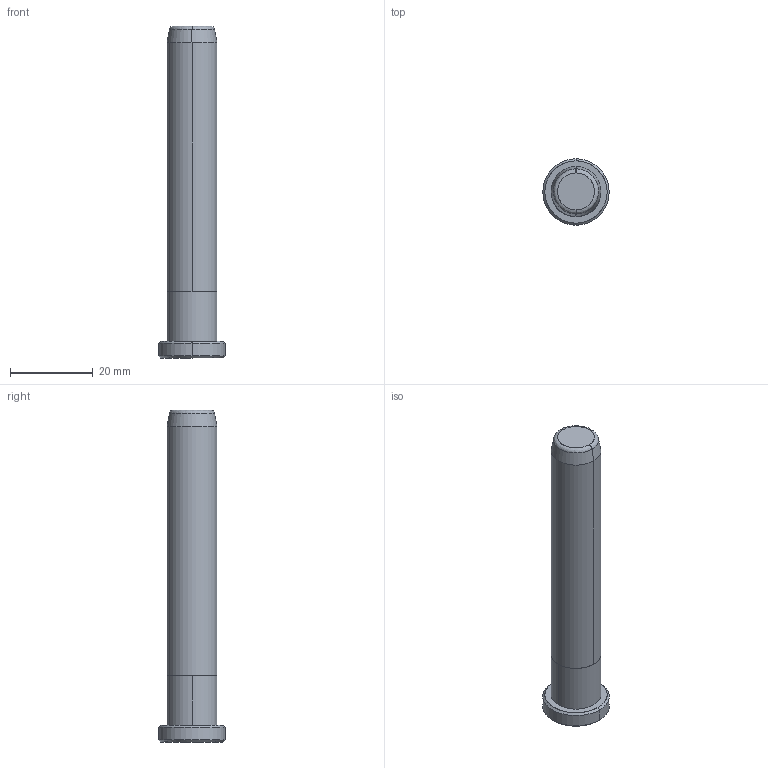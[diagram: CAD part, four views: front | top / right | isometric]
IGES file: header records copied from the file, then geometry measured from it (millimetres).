
Start section: START RECORD GO HERE.
Global section: file name: B80812080.igs; native system: DASSAULT SYSTEMES CATIA V5 R20 - www.3ds.com; preprocessor: CATIA Version 5 Release 20 ; author: Utente; organization: NB04-ASUS; date: 20200419.165517; units: millimetre
Bounding box: 16 x 16 x 80 mm (x, y, z)
Surface area: 3397.6 mm2 (no closed solid volume)
Topology: 0 solids, 0 shells, 20 faces, 80 edges, 80 vertices
Faces by surface type: revolution 16, plane 4
